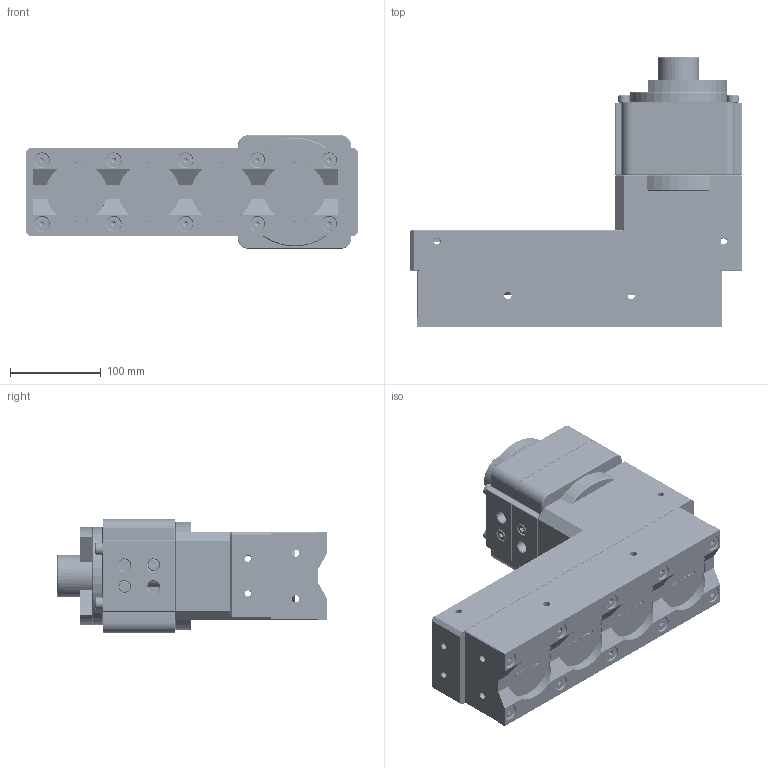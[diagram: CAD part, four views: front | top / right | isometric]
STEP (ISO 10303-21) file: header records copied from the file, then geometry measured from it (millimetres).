
FILE_DESCRIPTION (( 'STEP AP203' ), '1' );
FILE_NAME ('8140417_p.STEP', '2012-04-27T18:49:14', ( '' ), ( '' ), 'SwSTEP 2.0', 'SolidWorks 2010', '' );
FILE_SCHEMA (( 'CONFIG_CONTROL_DESIGN' ));
Products named in the file (1): 8140417_p
Bounding box: 366.27 x 298.25 x 125 mm (x, y, z)
Surface area: 622530.7 mm2 (no closed solid volume)
Topology: 0 solids, 121 shells, 3128 faces, 11999 edges, 8913 vertices
Faces by surface type: cylinder 1686, cone 829, plane 518, bspline 45, torus 42, sphere 8
Entity records: 183246 total; most frequent: CARTESIAN_POINT 89264, ORIENTED_EDGE 19312, DIRECTION 17762, EDGE_CURVE 11991, VERTEX_POINT 8913, LINE 6656, VECTOR 6656, AXIS2_PLACEMENT_3D 5553
